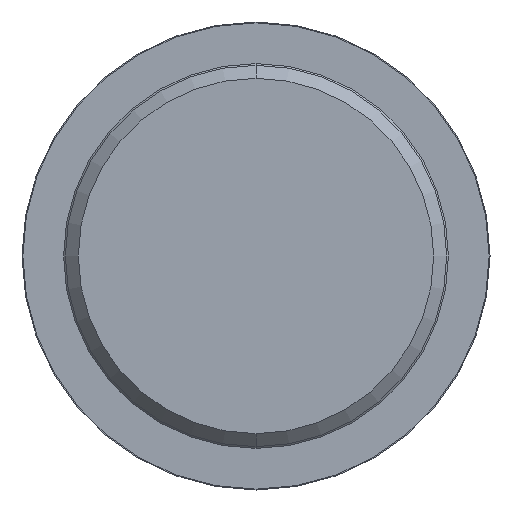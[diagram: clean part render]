
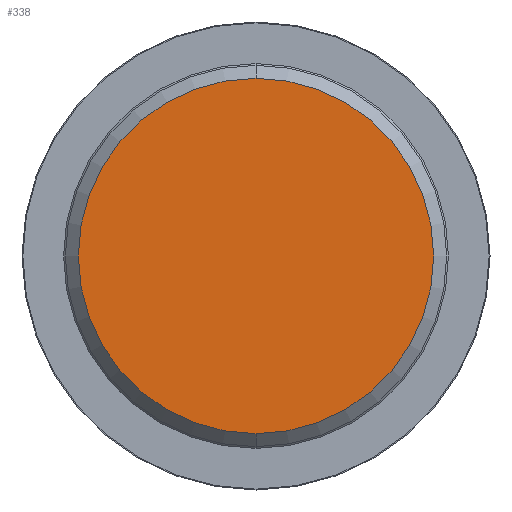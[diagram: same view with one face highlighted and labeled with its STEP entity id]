
A CAD part, front view. The second image highlights one B-rep face of the part: STEP entity #338.
In plain terms, the highlighted planar face has unit normal (0, -1, 0).
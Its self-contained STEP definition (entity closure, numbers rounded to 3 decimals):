
#18 = VERTEX_POINT ( 'NONE', #359 ) ;
#63 = CIRCLE ( 'NONE', #150, 10.25 ) ;
#70 = AXIS2_PLACEMENT_3D ( 'NONE', #533, #93, #318 ) ;
#93 = DIRECTION ( 'NONE',  ( 0., 1., 0. ) ) ;
#150 = AXIS2_PLACEMENT_3D ( 'NONE', #581, #438, #288 ) ;
#228 = CARTESIAN_POINT ( 'NONE',  ( 0., 0., -10.25 ) ) ;
#259 = ORIENTED_EDGE ( 'NONE', *, *, #758, .F. ) ;
#288 = DIRECTION ( 'NONE',  ( 0., 0., 1. ) ) ;
#318 = DIRECTION ( 'NONE',  ( 0., 0., 1. ) ) ;
#325 = VERTEX_POINT ( 'NONE', #228 ) ;
#338 = ADVANCED_FACE ( 'NONE', ( #397 ), #393, .F. ) ;
#359 = CARTESIAN_POINT ( 'NONE',  ( 0., 0., 10.25 ) ) ;
#393 = PLANE ( 'NONE',  #70 ) ;
#397 = FACE_OUTER_BOUND ( 'NONE', #648, .T. ) ;
#434 = DIRECTION ( 'NONE',  ( 0., 0., 1. ) ) ;
#438 = DIRECTION ( 'NONE',  ( 0., 1., 0. ) ) ;
#485 = AXIS2_PLACEMENT_3D ( 'NONE', #814, #811, #434 ) ;
#533 = CARTESIAN_POINT ( 'NONE',  ( 10.25, 0., 0. ) ) ;
#581 = CARTESIAN_POINT ( 'NONE',  ( 0., 0., 0. ) ) ;
#648 = EDGE_LOOP ( 'NONE', ( #918, #259 ) ) ;
#758 = EDGE_CURVE ( 'NONE', #325, #18, #781, .T. ) ;
#777 = EDGE_CURVE ( 'NONE', #18, #325, #63, .T. ) ;
#781 = CIRCLE ( 'NONE', #485, 10.25 ) ;
#811 = DIRECTION ( 'NONE',  ( 0., 1., 0. ) ) ;
#814 = CARTESIAN_POINT ( 'NONE',  ( 0., 0., 0. ) ) ;
#918 = ORIENTED_EDGE ( 'NONE', *, *, #777, .F. ) ;
